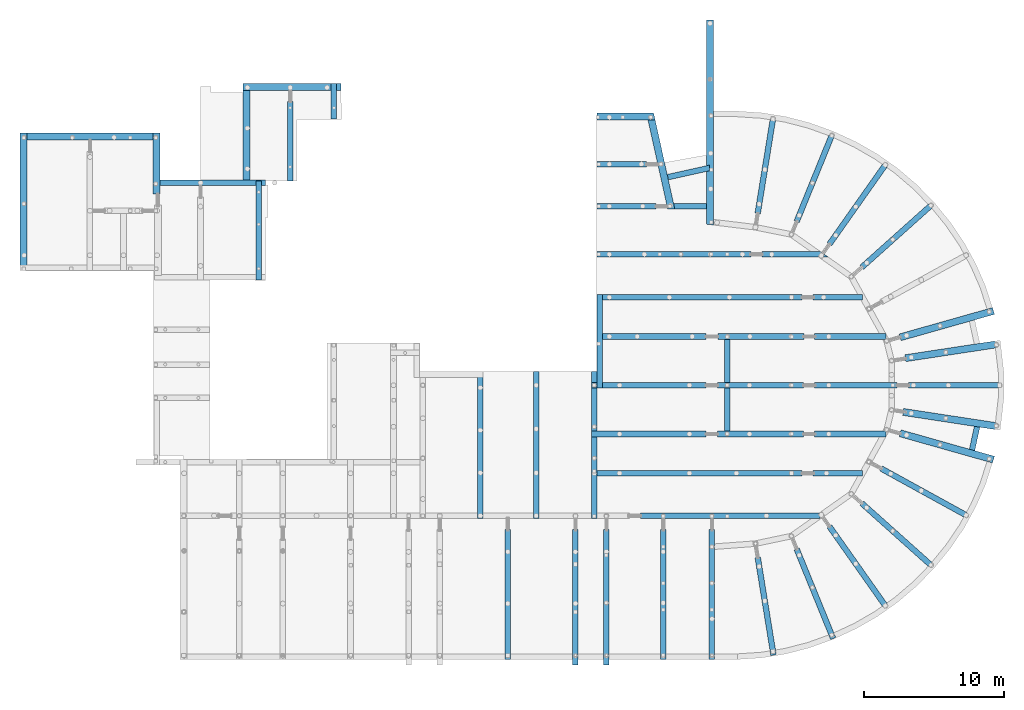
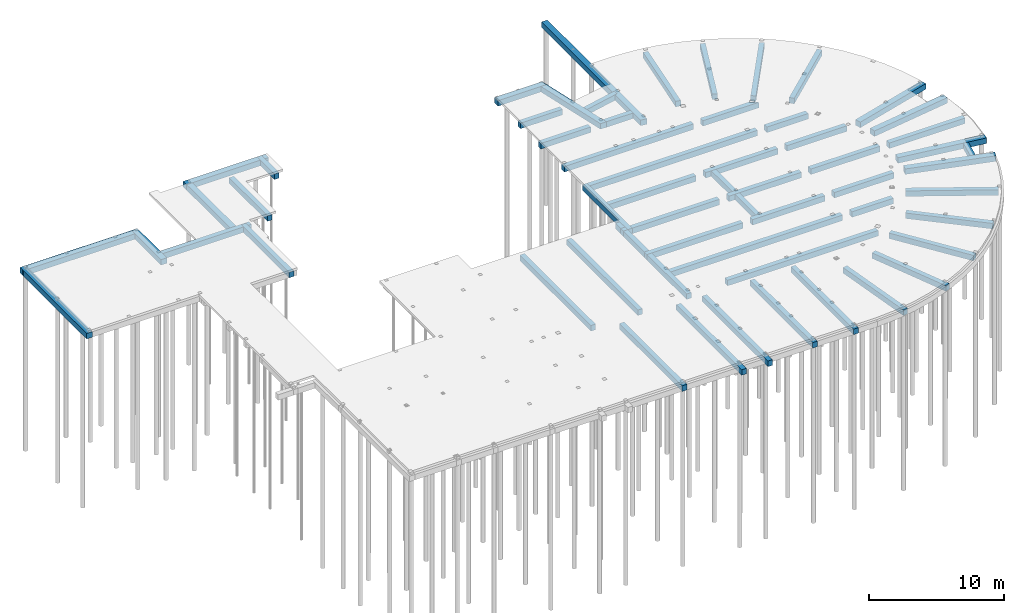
# One storey, part 5 of 22: 57 beams.
"""IFC2X3 building model written with IfcOpenShell, lengths in millimetres."""

from ifc_helpers import new_model, si_unit, frame, origin_with_axes, origin_2d_with_axis, place, context, subcontext, project, spatial, rectangle, extrude, clip, halfspace, material, type_object, element, save


model = new_model("IFC2X3")

# Units and contexts
model_context = context("Model", 3, precision=1e-05, world=origin_with_axes())
body_context = subcontext(model_context, "Body", "Model", "MODEL_VIEW")
ifc_project = project(units=[si_unit("LENGTHUNIT", "METRE", prefix="MILLI"), si_unit("AREAUNIT", "SQUARE_METRE"), si_unit("VOLUMEUNIT", "CUBIC_METRE"), si_unit("MASSUNIT", "GRAM", prefix="KILO"), si_unit("TIMEUNIT", "SECOND"), si_unit("PLANEANGLEUNIT", "RADIAN"), si_unit("SOLIDANGLEUNIT", "STERADIAN"), si_unit("THERMODYNAMICTEMPERATUREUNIT", "DEGREE_CELSIUS"), si_unit("LUMINOUSINTENSITYUNIT", "LUMEN")], contexts=[model_context])

# Site, building, storey
site_placement = place(None, origin_with_axes())
site = spatial("IfcSite", under=ifc_project, at=site_placement, Name="Undefined", CompositionType="ELEMENT")
building_placement = place(site_placement, origin_with_axes())
building = spatial("IfcBuilding", under=site, at=building_placement, Name="Undefined", CompositionType="ELEMENT")
storey_placement = place(building_placement, origin_with_axes())
storey = spatial("IfcBuildingStorey", under=building, at=storey_placement, Name="Undefined", CompositionType="ELEMENT", Elevation=0.0)

# Beams
ifc_material = material(Name="CONCRETE/C30/37")
beam_type_1 = type_object("IfcBeamType", Name="400*500", PredefinedType="NOTDEFINED")
beam_1_placement = place(storey_placement, frame((41313.0665930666, 19416.0599047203, -520.0), z_axis=(0.0, 0.0, 1.0), x_axis=(0.0, 1.0, 0.0)))
element("IfcBeam", 1, at=beam_1_placement, inside=storey, type_object=beam_type_1, material=ifc_material, Name="BALK", context=body_context, shape_type="SweptSolid", body=[
    extrude(rectangle(XDim=400.0, YDim=500.0, at=origin_2d_with_axis()), frame((6699.63930604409, 7.27595765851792e-12, 0.0), z_axis=(-1.0, 0.0, 0.0), x_axis=(0.0, -1.0, 0.0)), (0.0, 0.0, 1.0), 6699.64),
])
beam_2_placement = place(storey_placement, frame((44685.778358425, 35452.0701223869, -520.0), z_axis=(0.0, 0.0, 1.0), x_axis=(-1.0, 0.0, 0.0)))
element("IfcBeam", 2, at=beam_2_placement, inside=storey, type_object=beam_type_1, material=ifc_material, Name="BALK", context=body_context, shape_type="SweptSolid", body=[
    extrude(rectangle(XDim=400.0, YDim=500.0, at=origin_2d_with_axis()), frame((3572.70964659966, 0.0, 0.0), z_axis=(-1.0, 0.0, 0.0), x_axis=(0.0, -1.0, 0.0)), (0.0, 0.0, 1.0), 3572.71),
])
beam_3_placement = place(storey_placement, frame((45371.4467927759, 32438.742046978, -520.0), z_axis=(0.0, 0.0, 1.0), x_axis=(-1.0, 0.0, 0.0)))
element("IfcBeam", 3, at=beam_3_placement, inside=storey, type_object=beam_type_1, material=ifc_material, Name="BALK", context=body_context, shape_type="SweptSolid", body=[
    extrude(rectangle(XDim=400.0, YDim=500.0, at=origin_2d_with_axis()), frame((4258.37808095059, 0.0, 0.0), z_axis=(-1.0, 0.0, 0.0), x_axis=(0.0, -1.0, 0.0)), (0.0, 0.0, 1.0), 4258.38),
])
beam_4_placement = place(storey_placement, frame((55814.0937151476, 13316.4203283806, -520.0), z_axis=(0.0, 0.0, 1.0), x_axis=(-1.0, 0.0, 0.0)))
element("IfcBeam", 4, at=beam_4_placement, inside=storey, type_object=beam_type_1, material=ifc_material, Name="BALK", context=body_context, shape_type="Clipping", body=[
    clip(extrude(rectangle(XDim=400.0, YDim=500.0, at=origin_2d_with_axis()), frame((15073.4273696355, 0.0, 0.0), z_axis=(-1.0, 0.0, 0.0), x_axis=(0.0, -1.0, 0.0)), (0.0, 0.0, 1.0), 15073.43), halfspace(frame((15073.4273696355, 0.0, 0.0), z_axis=(1.0, 0.0, 0.0), x_axis=(0.0, 0.0, -1.0)), False)),
])
beam_5_placement = place(storey_placement, frame((55814.0937151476, 25915.6991949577, -520.0), z_axis=(0.0, 0.0, 1.0), x_axis=(-1.0, 0.0, 0.0)))
element("IfcBeam", 5, at=beam_5_placement, inside=storey, type_object=beam_type_1, material=ifc_material, Name="BALK", context=body_context, shape_type="SweptSolid", body=[
    extrude(rectangle(XDim=400.0, YDim=500.0, at=origin_2d_with_axis()), frame((14701.0250033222, 0.0, 0.0), z_axis=(-1.0, 0.0, 0.0), x_axis=(0.0, -1.0, 0.0)), (0.0, 0.0, 1.0), 14701.03),
])
beam_6_placement = place(storey_placement, frame((55953.6309869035, 23108.6585527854, -520.0), z_axis=(0.0, 0.0, 1.0), x_axis=(-1.0, 0.0, 0.0)))
element("IfcBeam", 6, at=beam_6_placement, inside=storey, type_object=beam_type_1, material=ifc_material, Name="BALK", context=body_context, shape_type="SweptSolid", body=[
    extrude(rectangle(XDim=400.0, YDim=500.0, at=origin_2d_with_axis()), frame((6174.49371537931, 0.0, 0.0), z_axis=(-1.0, 0.0, 0.0), x_axis=(0.0, -1.0, 0.0)), (0.0, 0.0, 1.0), 6174.49),
])
for number, where, z_axis, x_axis, name in (
    (7, (55924.0937151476, 19616.0599047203, -520.0), (0.0, 0.0, 1.0), (-1.0, 0.0, 0.0), "BALK"),
    (8, (55924.0937151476, 16127.9599047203, -520.0), (0.0, 0.0, 1.0), (-1.0, 0.0, 0.0), "BALK"),
):
    element("IfcBeam", number, at=place(storey_placement, frame(where, z_axis=z_axis, x_axis=x_axis)), inside=storey, type_object=beam_type_1, material=ifc_material, Name=name, context=body_context, shape_type="SweptSolid", body=[
        extrude(rectangle(XDim=400.0, YDim=500.0, at=origin_2d_with_axis()), frame((6174.09371537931, 0.0, 0.0), z_axis=(-1.0, 0.0, 0.0), x_axis=(0.0, -1.0, 0.0)), (0.0, 0.0, 1.0), 6174.09),
    ])
beam_7_placement = place(storey_placement, frame((52143.2836200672, 28991.3432623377, -520.0), z_axis=(0.0, 0.0, 1.0), x_axis=(-0.999999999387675, -3.49950000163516e-05, 0.0)))
element("IfcBeam", 9, at=beam_7_placement, inside=storey, type_object=beam_type_1, material=ifc_material, Name="BALK", context=body_context, shape_type="SweptSolid", body=[
    extrude(rectangle(XDim=400.0, YDim=500.0, at=origin_2d_with_axis()), frame((11030.2172038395, -7.47436590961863e-17, 0.0), z_axis=(-1.0, 0.0, 0.0), x_axis=(0.0, -1.0, 0.0)), (0.0, 0.0, 1.0), 11030.22),
])
beam_8_placement = place(storey_placement, frame((48949.9999997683, 16127.9599047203, -520.0), z_axis=(0.0, 0.0, 1.0), x_axis=(-1.0, 0.0, 0.0)))
element("IfcBeam", 10, at=beam_8_placement, inside=storey, type_object=beam_type_1, material=ifc_material, Name="BALK", context=body_context, shape_type="Clipping", body=[
    clip(extrude(rectangle(XDim=400.0, YDim=500.0, at=origin_2d_with_axis()), frame((8209.3337245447, 0.0, 0.0), z_axis=(-1.0, 0.0, 0.0), x_axis=(0.0, -1.0, 0.0)), (0.0, 0.0, 1.0), 8209.33), halfspace(frame((8209.3337245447, 0.0, 0.0), z_axis=(1.0, 0.0, 0.0), x_axis=(0.0, 0.0, 1.0)), False)),
])
beam_9_placement = place(storey_placement, frame((48949.9999997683, 19616.0599047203, -520.0), z_axis=(0.0, 0.0, 1.0), x_axis=(-1.0, 0.0, 0.0)))
element("IfcBeam", 11, at=beam_9_placement, inside=storey, type_object=beam_type_1, material=ifc_material, Name="BALK", context=body_context, shape_type="Clipping", body=[
    clip(extrude(rectangle(XDim=400.0, YDim=500.0, at=origin_2d_with_axis()), frame((8209.33381174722, 0.0, 0.0), z_axis=(-1.0, 0.0, 0.0), x_axis=(0.0, -1.0, 0.0)), (0.0, 0.0, 1.0), 8209.33), halfspace(frame((8209.33381174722, 0.0, 0.0), z_axis=(1.0, 0.0, 0.0), x_axis=(0.0, 0.0, 1.0)), False)),
])
beam_10_placement = place(storey_placement, frame((48949.9999997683, 23108.6258148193, -520.0), z_axis=(0.0, 0.0, 1.0), x_axis=(-1.0, 0.0, 0.0)))
element("IfcBeam", 12, at=beam_10_placement, inside=storey, type_object=beam_type_1, material=ifc_material, Name="BALK", context=body_context, shape_type="SweptSolid", body=[
    extrude(rectangle(XDim=400.0, YDim=500.0, at=origin_2d_with_axis()), frame((7836.93511939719, 0.0, 0.0), z_axis=(-1.0, 0.0, 0.0), x_axis=(0.0, -1.0, 0.0)), (0.0, 0.0, 1.0), 7836.94),
])
beam_11_placement = place(storey_placement, frame((50449.9999997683, 15927.9599047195, -519.999999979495), z_axis=(0.0, 0.0, 1.0), x_axis=(0.0, 1.0, 0.0)))
element("IfcBeam", 13, at=beam_11_placement, inside=storey, type_object=beam_type_1, material=ifc_material, Name="BALK", context=body_context, shape_type="SweptSolid", body=[
    extrude(rectangle(XDim=400.0, YDim=500.0, at=origin_2d_with_axis()), frame((7380.66591009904, 0.0, 0.0), z_axis=(-1.0, 0.0, 0.0), x_axis=(0.0, -1.0, 0.0)), (0.0, 0.0, 1.0), 7380.67),
])
beam_12_placement = place(storey_placement, frame((44240.666421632, 10273.6240965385, -520.0), z_axis=(0.0, 0.0, 1.0), x_axis=(1.0, 0.0, 0.0)))
element("IfcBeam", 14, at=beam_12_placement, inside=storey, type_object=beam_type_1, material=ifc_material, Name="BALK", context=body_context, shape_type="SweptSolid", body=[
    extrude(rectangle(XDim=400.0, YDim=500.0, at=origin_2d_with_axis()), frame((12858.2578504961, 0.0, 0.0), z_axis=(-1.0, 0.0, 0.0), x_axis=(0.0, -1.0, 0.0)), (0.0, 0.0, 1.0), 12858.26),
])
beam_13_placement = place(storey_placement, frame((62624.5071572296, 19616.0599047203, -520.0), z_axis=(0.0, 0.0, 1.0), x_axis=(-1.0, 0.0, 0.0)))
element("IfcBeam", 15, at=beam_13_placement, inside=storey, type_object=beam_type_1, material=ifc_material, Name="BALK", context=body_context, shape_type="SweptSolid", body=[
    extrude(rectangle(XDim=400.0, YDim=500.0, at=origin_2d_with_axis()), frame((5900.41344208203, 0.0, 0.0), z_axis=(-1.0, 0.0, 0.0), x_axis=(0.0, -1.0, 0.0)), (0.0, 0.0, 1.0), 5900.41),
])
beam_14_placement = place(storey_placement, frame((22291.5971480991, 38674.3329422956, -520.0), z_axis=(0.0, 0.0, 1.0), x_axis=(-2.34999999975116e-06, 0.999999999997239, 0.0)))
element("IfcBeam", 16, at=beam_14_placement, inside=storey, type_object=beam_type_1, material=ifc_material, Name="BALK", context=body_context, shape_type="Clipping", body=[
    clip(extrude(rectangle(XDim=400.0, YDim=500.0, at=origin_2d_with_axis()), frame((2564.36718033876, 0.0, 0.0), z_axis=(-1.0, 0.0, 0.0), x_axis=(0.0, -1.0, 0.0)), (0.0, 0.0, 1.0), 2564.37), halfspace(frame((2564.36503203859, -0.00355932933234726, 0.0), z_axis=(0.999999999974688, -7.11500000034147e-06, 0.0), x_axis=(0.0, 0.0, 1.0)), False)),
])
beam_15_placement = place(storey_placement, frame((19159.1603393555, 34262.1307373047, -520.0), z_axis=(0.0, 0.0, 1.0), x_axis=(0.0, 1.0, 0.0)))
element("IfcBeam", 17, at=beam_15_placement, inside=storey, type_object=beam_type_1, material=ifc_material, Name="BALK", context=body_context, shape_type="SweptSolid", body=[
    extrude(rectangle(XDim=400.0, YDim=500.0, at=origin_2d_with_axis()), frame((5676.62353510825, 3.00517947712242e-19, 0.0), z_axis=(-1.0, 0.0, 0.0), x_axis=(0.0, -1.0, 0.0)), (0.0, 0.0, 1.0), 5676.62),
])
beam_16_placement = place(storey_placement, frame((17387.3418762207, 34117.1122741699, -520.0), z_axis=(0.0, 0.0, 1.0), x_axis=(-0.999999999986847, -5.12899999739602e-06, 0.0)))
element("IfcBeam", 18, at=beam_16_placement, inside=storey, type_object=beam_type_1, material=ifc_material, Name="BALK", context=body_context, shape_type="Clipping", body=[
    clip(extrude(rectangle(XDim=400.0, YDim=500.0, at=origin_2d_with_axis()), frame((8062.34422103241, -6.82907118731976e-18, -1.13686837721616e-13), z_axis=(-1.0, 0.0, 0.0), x_axis=(0.0, -1.0, 0.0)), (0.0, 0.0, 1.0), 8062.34), halfspace(frame((8062.34111288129, -2.93221091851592e-08, -1.13686837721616e-13), z_axis=(0.999999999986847, -5.12899999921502e-06, 0.0), x_axis=(0.0, 0.0, -1.0)), False)),
])
beam_17_placement = place(storey_placement, frame((16906.9434020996, 27496.1891174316, -520.0), z_axis=(0.0, 0.0, 1.0), x_axis=(0.0, 1.0, 0.0)))
element("IfcBeam", 19, at=beam_17_placement, inside=storey, type_object=beam_type_1, material=ifc_material, Name="BALK", context=body_context, shape_type="Clipping", body=[
    clip(extrude(rectangle(XDim=400.0, YDim=500.0, at=origin_2d_with_axis()), frame((6750.92312310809, 0.0, 0.0), z_axis=(-1.0, 0.0, 0.0), x_axis=(0.0, -1.0, 0.0)), (0.0, 0.0, 1.0), 7081.51), halfspace(frame((-330.586227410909, 3.30586772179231e-07, 0.0), z_axis=(-0.999999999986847, -5.12899999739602e-06, 0.0), x_axis=(0.0, 0.0, -1.0)), False)),
])
beam_18_placement = place(storey_placement, frame((49202.7599101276, 35187.4483490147, -520.0), z_axis=(0.0, 0.0, 1.0), x_axis=(-0.976256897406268, -0.216615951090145, 0.0)))
element("IfcBeam", 20, at=beam_18_placement, inside=storey, type_object=beam_type_1, material=ifc_material, Name="BALK", context=body_context, shape_type="Clipping", body=[
    clip(clip(clip(clip(extrude(rectangle(XDim=400.0, YDim=500.0, at=origin_2d_with_axis()), frame((3721.78597079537, 0.0, 0.0), z_axis=(-1.0, 0.0, 0.0), x_axis=(0.0, -1.0, 0.0)), (0.0, 0.0, 1.0), 4147.36), halfspace(frame((57.0257516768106, 199.99999997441, -250.0), z_axis=(-0.984075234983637, 0.17775244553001, 0.0), x_axis=(0.0, 0.0, 1.0)), False)), halfspace(frame((3078.60993876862, -200.000001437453, -250.0), z_axis=(0.999213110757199, 0.0396630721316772, 0.0), x_axis=(0.0, 0.0, 1.0)), False)), halfspace(frame((3576.71307467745, -7.27595761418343e-12, 0.0), z_axis=(-0.99999998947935, -0.000145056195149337, 0.0), x_axis=(0.0, 0.0, -1.0)), True)), halfspace(frame((-280.503425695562, -7.27595761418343e-12, 0.0), z_axis=(-0.976256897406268, 0.216615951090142, 0.0), x_axis=(0.0, 0.0, 1.0)), False)),
])
beam_19_placement = place(storey_placement, frame((36780.7000625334, 10418.6233335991, -520.0), z_axis=(0.0, 0.0, 1.0), x_axis=(0.0, 1.0, 0.0)))
element("IfcBeam", 21, at=beam_19_placement, inside=storey, type_object=beam_type_1, material=ifc_material, Name="BALK", context=body_context, shape_type="Clipping", body=[
    clip(extrude(rectangle(XDim=400.0, YDim=500.0, at=origin_2d_with_axis()), frame((10167.6969337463, 0.0, 0.0), z_axis=(-1.0, 0.0, 0.0), x_axis=(0.0, -1.0, 0.0)), (0.0, 0.0, 1.0), 10512.7), halfspace(frame((-344.999237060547, 0.0, 0.0), z_axis=(1.0, 0.0, 0.0), x_axis=(0.0, 0.0, -1.0)), True)),
])
beam_20_placement = place(storey_placement, frame((32780.7005813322, 10418.6233335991, -520.0), z_axis=(0.0, 0.0, 1.0), x_axis=(0.0, 1.0, 0.0)))
element("IfcBeam", 22, at=beam_20_placement, inside=storey, type_object=beam_type_1, material=ifc_material, Name="BALK", context=body_context, shape_type="Clipping", body=[
    clip(clip(extrude(rectangle(XDim=400.0, YDim=500.0, at=origin_2d_with_axis()), frame((10167.6969337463, 0.0, 0.0), z_axis=(-1.0, 0.0, 0.0), x_axis=(0.0, -1.0, 0.0)), (0.0, 0.0, 1.0), 10512.7), halfspace(frame((10167.6969337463, 0.0, 0.0), z_axis=(1.0, 0.0, 0.0), x_axis=(0.0, 0.0, 1.0)), False)), halfspace(frame((-344.999237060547, 0.0, 0.0), z_axis=(1.0, 0.0, 0.0), x_axis=(0.0, 0.0, -1.0)), True)),
])
beam_21_placement = place(storey_placement, frame((40940.666423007, 10418.6233335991, -520.0), z_axis=(0.0, 0.0, 1.0), x_axis=(0.0, 1.0, 0.0)))
element("IfcBeam", 23, at=beam_21_placement, inside=storey, type_object=beam_type_1, material=ifc_material, Name="BALK", context=body_context, shape_type="Clipping", body=[
    clip(extrude(rectangle(XDim=400.0, YDim=500.0, at=origin_2d_with_axis()), frame((10167.6969337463, 0.0, 0.0), z_axis=(-1.0, 0.0, 0.0), x_axis=(0.0, -1.0, 0.0)), (0.0, 0.0, 1.0), 10512.7), halfspace(frame((-344.999237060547, 0.0, 0.0), z_axis=(1.0, 0.0, 0.0), x_axis=(0.0, 0.0, -1.0)), True)),
])
beam_22_placement = place(storey_placement, frame((49561.6195846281, 32438.742046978, -520.0), z_axis=(0.0, 0.0, 1.0), x_axis=(-1.0, 0.0, 0.0)))
element("IfcBeam", 24, at=beam_22_placement, inside=storey, type_object=beam_type_1, material=ifc_material, Name="BALK", context=body_context, shape_type="Clipping", body=[
    clip(clip(clip(extrude(rectangle(XDim=400.0, YDim=500.0, at=origin_2d_with_axis()), frame((3456.77279185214, 0.0, 0.0), z_axis=(-1.0, 0.0, 0.0), x_axis=(0.0, -1.0, 0.0)), (0.0, 0.0, 1.0), 3456.77), halfspace(frame((2855.89023518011, 200.0, 250.0), z_axis=(0.97626061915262, 0.216599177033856, 0.0), x_axis=(0.0, 0.0, -1.0)), False)), halfspace(frame((585.016270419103, 200.0, -250.0), z_axis=(-1.0, 0.0, 0.0), x_axis=(0.0, 0.0, 1.0)), False)), halfspace(frame((85.0162704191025, 0.0, 0.0), z_axis=(-1.0, 0.0, 0.0), x_axis=(0.0, 0.0, 1.0)), False)),
])
beam_23_placement = place(storey_placement, frame((57372.6520609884, 28990.9572601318, -520.0), z_axis=(0.0, 0.0, 1.0), x_axis=(-0.999999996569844, 8.28269999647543e-05, 0.0)))
element("IfcBeam", 25, at=beam_23_placement, inside=storey, type_object=beam_type_1, material=ifc_material, Name="BALK", context=body_context, shape_type="Clipping", body=[
    clip(extrude(rectangle(XDim=400.0, YDim=500.0, at=origin_2d_with_axis()), frame((4429.36845771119, 0.0, 0.0), z_axis=(-1.0, 0.0, 0.0), x_axis=(0.0, -1.0, 0.0)), (0.0, 0.0, 1.0), 4761.49), halfspace(frame((474.064382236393, -366.581605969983, 520.0), z_axis=(0.576365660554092, 0.817191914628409, 0.0), x_axis=(0.0, 0.0, 1.0)), True)),
])
beam_24_placement = place(storey_placement, frame((60157.2823647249, 25915.6991949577, -520.0), z_axis=(0.0, 0.0, 1.0), x_axis=(-1.0, 0.0, 0.0)))
element("IfcBeam", 26, at=beam_24_placement, inside=storey, type_object=beam_type_1, material=ifc_material, Name="BALK", context=body_context, shape_type="SweptSolid", body=[
    extrude(rectangle(XDim=400.0, YDim=500.0, at=origin_2d_with_axis()), frame((3543.18864957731, 0.0, 0.0), z_axis=(-1.0, 0.0, 0.0), x_axis=(0.0, -1.0, 0.0)), (0.0, 0.0, 1.0), 3543.19),
])
beam_25_placement = place(storey_placement, frame((61813.8693527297, 23108.6258148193, -520.0), z_axis=(0.0, 0.0, 1.0), x_axis=(-1.0, 0.0, 0.0)))
element("IfcBeam", 27, at=beam_25_placement, inside=storey, type_object=beam_type_1, material=ifc_material, Name="BALK", context=body_context, shape_type="SweptSolid", body=[
    extrude(rectangle(XDim=400.0, YDim=500.0, at=origin_2d_with_axis()), frame((5089.7756375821, 0.0, 0.0), z_axis=(-1.0, 0.0, 0.0), x_axis=(0.0, -1.0, 0.0)), (0.0, 0.0, 1.0), 5089.78),
])
beam_26_placement = place(storey_placement, frame((60150.7137025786, 13316.4203283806, -520.0), z_axis=(0.0, 0.0, 1.0), x_axis=(-1.0, 0.0, 0.0)))
element("IfcBeam", 28, at=beam_26_placement, inside=storey, type_object=beam_type_1, material=ifc_material, Name="BALK", context=body_context, shape_type="SweptSolid", body=[
    extrude(rectangle(XDim=400.0, YDim=500.0, at=origin_2d_with_axis()), frame((3536.619987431, 0.0, 0.0), z_axis=(-1.0, 0.0, 0.0), x_axis=(0.0, -1.0, 0.0)), (0.0, 0.0, 1.0), 3536.62),
])
beam_27_placement = place(storey_placement, frame((61817.1067500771, 16127.9599047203, -520.0), z_axis=(0.0, 0.0, 1.0), x_axis=(-1.0, 0.0, 0.0)))
element("IfcBeam", 29, at=beam_27_placement, inside=storey, type_object=beam_type_1, material=ifc_material, Name="BALK", context=body_context, shape_type="SweptSolid", body=[
    extrude(rectangle(XDim=400.0, YDim=500.0, at=origin_2d_with_axis()), frame((5093.01303492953, 0.0, 0.0), z_axis=(-1.0, 0.0, 0.0), x_axis=(0.0, -1.0, 0.0)), (0.0, 0.0, 1.0), 5093.01),
])
beam_28_placement = place(storey_placement, frame((53719.9219370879, 38613.7357228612, -520.0), z_axis=(0.0, 0.0, 1.0), x_axis=(-0.159664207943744, -0.987171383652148, 0.0)))
element("IfcBeam", 30, at=beam_28_placement, inside=storey, type_object=beam_type_1, material=ifc_material, Name="BALK", context=body_context, shape_type="SweptSolid", body=[
    extrude(rectangle(XDim=400.0, YDim=500.0, at=origin_2d_with_axis()), frame((6779.94828001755, 0.0, 0.0), z_axis=(-1.0, 0.0, 0.0), x_axis=(0.0, -1.0, 0.0)), (0.0, 0.0, 1.0), 6779.95),
])
beam_29_placement = place(storey_placement, frame((57915.2122665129, 37438.4812170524, -520.0), z_axis=(0.0, 0.0, 1.0), x_axis=(-0.377505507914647, -0.92600733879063, 0.0)))
element("IfcBeam", 31, at=beam_29_placement, inside=storey, type_object=beam_type_1, material=ifc_material, Name="BALK", context=body_context, shape_type="SweptSolid", body=[
    extrude(rectangle(XDim=400.0, YDim=500.0, at=origin_2d_with_axis()), frame((6579.65439125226, 0.0, 1.13686837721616e-13), z_axis=(-1.0, 0.0, 0.0), x_axis=(0.0, -1.0, 0.0)), (0.0, 0.0, 1.0), 6579.65),
])
beam_30_placement = place(storey_placement, frame((61736.036661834, 35342.7226687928, -520.0), z_axis=(0.0, 0.0, 1.0), x_axis=(-0.576253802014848, -0.817270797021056, 0.0)))
element("IfcBeam", 32, at=beam_30_placement, inside=storey, type_object=beam_type_1, material=ifc_material, Name="BALK", context=body_context, shape_type="SweptSolid", body=[
    extrude(rectangle(XDim=400.0, YDim=500.0, at=origin_2d_with_axis()), frame((6879.17556203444, 7.63741909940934e-13, 0.0), z_axis=(-1.0, 0.0, 0.0), x_axis=(0.0, -1.0, 0.0)), (0.0, 0.0, 1.0), 6879.18),
])
beam_31_placement = place(storey_placement, frame((64992.6447545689, 32447.9735306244, -520.0), z_axis=(0.0, 0.0, 1.0), x_axis=(-0.745323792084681, -0.666702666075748, 0.0)))
element("IfcBeam", 33, at=beam_31_placement, inside=storey, type_object=beam_type_1, material=ifc_material, Name="BALK", context=body_context, shape_type="SweptSolid", body=[
    extrude(rectangle(XDim=400.0, YDim=500.0, at=origin_2d_with_axis()), frame((6579.72541858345, 0.0, 0.0), z_axis=(-1.0, 0.0, 0.0), x_axis=(0.0, -1.0, 0.0)), (0.0, 0.0, 1.0), 6579.73),
])
beam_32_placement = place(storey_placement, frame((69897.1840072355, 19616.0599047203, -520.0), z_axis=(0.0, 0.0, 1.0), x_axis=(-1.0, 0.0, 0.0)))
element("IfcBeam", 34, at=beam_32_placement, inside=storey, type_object=beam_type_1, material=ifc_material, Name="BALK", context=body_context, shape_type="SweptSolid", body=[
    extrude(rectangle(XDim=400.0, YDim=500.0, at=origin_2d_with_axis()), frame((6472.67685000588, 0.0, 0.0), z_axis=(-1.0, 0.0, 0.0), x_axis=(0.0, -1.0, 0.0)), (0.0, 0.0, 1.0), 6472.68),
])
beam_33_placement = place(storey_placement, frame((67507.7143847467, 10342.1249930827, -520.0), z_axis=(0.0, 0.0, 1.0), x_axis=(-0.876224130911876, 0.481903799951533, 0.0)))
element("IfcBeam", 35, at=beam_33_placement, inside=storey, type_object=beam_type_1, material=ifc_material, Name="BALK", context=body_context, shape_type="SweptSolid", body=[
    extrude(rectangle(XDim=400.0, YDim=500.0, at=origin_2d_with_axis()), frame((6880.25382990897, 0.0, 0.0), z_axis=(-1.0, 0.0, 0.0), x_axis=(0.0, -1.0, 0.0)), (0.0, 0.0, 1.0), 6880.25),
])
beam_34_placement = place(storey_placement, frame((64992.3416305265, 6783.80716386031, -520.0), z_axis=(0.0, 0.0, 1.0), x_axis=(-0.745289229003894, 0.666741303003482, 0.0)))
element("IfcBeam", 36, at=beam_34_placement, inside=storey, type_object=beam_type_1, material=ifc_material, Name="BALK", context=body_context, shape_type="SweptSolid", body=[
    extrude(rectangle(XDim=400.0, YDim=500.0, at=origin_2d_with_axis()), frame((6583.13081420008, -3.65437170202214e-13, 0.0), z_axis=(-1.0, 0.0, 0.0), x_axis=(0.0, -1.0, 0.0)), (0.0, 0.0, 1.0), 6583.13),
])
beam_35_placement = place(storey_placement, frame((61736.0361688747, 3889.39608581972, -520.0), z_axis=(0.0, 0.0, 1.0), x_axis=(-0.576300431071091, 0.817237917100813, 0.0)))
element("IfcBeam", 37, at=beam_35_placement, inside=storey, type_object=beam_type_1, material=ifc_material, Name="BALK", context=body_context, shape_type="SweptSolid", body=[
    extrude(rectangle(XDim=400.0, YDim=500.0, at=origin_2d_with_axis()), frame((6882.86877378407, 0.0, 0.0), z_axis=(-1.0, 0.0, 0.0), x_axis=(0.0, -1.0, 0.0)), (0.0, 0.0, 1.0), 6882.87),
])
beam_36_placement = place(storey_placement, frame((58042.9548225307, 1482.08909223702, -520.0), z_axis=(0.0, 0.0, 1.0), x_axis=(-0.377638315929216, 0.925953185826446, 0.0)))
element("IfcBeam", 38, at=beam_36_placement, inside=storey, type_object=beam_type_1, material=ifc_material, Name="BALK", context=body_context, shape_type="SweptSolid", body=[
    extrude(rectangle(XDim=400.0, YDim=500.0, at=origin_2d_with_axis()), frame((6920.15132055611, 0.0, 0.0), z_axis=(-1.0, 0.0, 0.0), x_axis=(0.0, -1.0, 0.0)), (0.0, 0.0, 1.0), 6920.15),
])
beam_37_placement = place(storey_placement, frame((53772.3569768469, 294.266371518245, -520.0), z_axis=(0.0, 0.0, 1.0), x_axis=(-0.15966535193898, 0.987171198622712, 0.0)))
element("IfcBeam", 39, at=beam_37_placement, inside=storey, type_object=beam_type_1, material=ifc_material, Name="BALK", context=body_context, shape_type="SweptSolid", body=[
    extrude(rectangle(XDim=400.0, YDim=500.0, at=origin_2d_with_axis()), frame((7085.78180785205, 0.0, 0.0), z_axis=(-1.0, 0.0, 0.0), x_axis=(0.0, -1.0, 0.0)), (0.0, 0.0, 1.0), 7085.78),
])
beam_38_placement = place(storey_placement, frame((49361.6195845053, 336.121921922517, -520.000000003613), z_axis=(0.0, 0.0, 1.0), x_axis=(0.0, 1.0, 0.0)))
element("IfcBeam", 40, at=beam_38_placement, inside=storey, type_object=beam_type_1, material=ifc_material, Name="BALK", context=body_context, shape_type="Clipping", body=[
    clip(extrude(rectangle(XDim=400.0, YDim=500.0, at=origin_2d_with_axis()), frame((8937.50217425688, 0.0, 0.0), z_axis=(-1.0, 0.0, 0.0), x_axis=(0.0, -1.0, 0.0)), (0.0, 0.0, 1.0), 9287.5), halfspace(frame((-350.000381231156, 0.0, 0.0), z_axis=(1.0, 0.0, 0.0), x_axis=(0.0, 0.0, -1.0)), True)),
])
beam_39_placement = place(storey_placement, frame((45873.9582229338, 336.121922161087, -520.0), z_axis=(0.0, 0.0, 1.0), x_axis=(0.0, 1.0, 0.0)))
element("IfcBeam", 41, at=beam_39_placement, inside=storey, type_object=beam_type_1, material=ifc_material, Name="BALK", context=body_context, shape_type="Clipping", body=[
    clip(extrude(rectangle(XDim=400.0, YDim=500.0, at=origin_2d_with_axis()), frame((8937.50198364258, 0.0, 0.0), z_axis=(-1.0, 0.0, 0.0), x_axis=(0.0, -1.0, 0.0)), (0.0, 0.0, 1.0), 9287.5), halfspace(frame((-350.000381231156, 0.0, 0.0), z_axis=(1.0, 0.0, 0.0), x_axis=(0.0, 0.0, -1.0)), True)),
])
for number, where, z_axis, x_axis, name in (
    (42, (41807.2864700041, -423.939341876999, -520.0), (0.0, 0.0, 1.0), (0.0, 1.0, 0.0), "BALK"),
    (43, (39587.2911849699, -423.939341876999, -520.0), (0.0, 0.0, 1.0), (-1.13299999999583e-06, 0.999999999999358, 0.0), "BALK"),
):
    element("IfcBeam", number, at=place(storey_placement, frame(where, z_axis=z_axis, x_axis=x_axis)), inside=storey, type_object=beam_type_1, material=ifc_material, Name=name, context=body_context, shape_type="SweptSolid", body=[
        extrude(rectangle(XDim=400.0, YDim=500.0, at=origin_2d_with_axis()), frame((9697.56324768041, 6.41730904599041e-20, -1.13686837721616e-13), z_axis=(-1.0, 0.0, 0.0), x_axis=(0.0, -1.0, 0.0)), (0.0, 0.0, 1.0), 9697.56),
    ])
beam_40_placement = place(storey_placement, frame((34741.2811446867, 336.121922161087, -520.0), z_axis=(0.0, 0.0, 1.0), x_axis=(0.0, 1.0, 0.0)))
element("IfcBeam", 44, at=beam_40_placement, inside=storey, type_object=beam_type_1, material=ifc_material, Name="BALK", context=body_context, shape_type="Clipping", body=[
    clip(extrude(rectangle(XDim=400.0, YDim=500.0, at=origin_2d_with_axis()), frame((8937.50198364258, 0.0, 0.0), z_axis=(-1.0, 0.0, 0.0), x_axis=(0.0, -1.0, 0.0)), (0.0, 0.0, 1.0), 9287.5), halfspace(frame((-350.000381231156, 0.0, 0.0), z_axis=(1.0, 0.0, 0.0), x_axis=(0.0, 0.0, -1.0)), True)),
])
beam_41_placement = place(storey_placement, frame((67996.183567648, 15014.0282730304, -520.0), z_axis=(0.0, 0.0, 1.0), x_axis=(0.211578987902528, 0.977360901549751, 0.0)))
element("IfcBeam", 45, at=beam_41_placement, inside=storey, type_object=beam_type_1, material=ifc_material, Name="BALK", context=body_context, shape_type="Clipping", body=[
    clip(clip(extrude(rectangle(XDim=400.0, YDim=500.0, at=origin_2d_with_axis()), frame((1837.99334941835, 0.0, 0.0), z_axis=(-1.0, 0.0, 0.0), x_axis=(0.0, -1.0, 0.0)), (0.0, 0.0, 1.0), 2035.02), halfspace(frame((1693.49527687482, -364.867330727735, 520.0), z_axis=(0.998075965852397, 0.0620029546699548, 0.0), x_axis=(0.0, 0.0, 1.0)), False)), halfspace(frame((-56.7258720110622, -429.391826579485, 520.0), z_axis=(0.998049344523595, -0.0624300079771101, 0.0), x_axis=(0.0, 0.0, 1.0)), True)),
])
beam_type_2 = type_object("IfcBeamType", Name="500*500", PredefinedType="NOTDEFINED")
beam_42_placement = place(storey_placement, frame((62837.4320736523, 23049.7425454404, -520.0), z_axis=(0.0, 0.0, 1.0), x_axis=(0.962245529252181, 0.27218291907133, 0.0)))
element("IfcBeam", 46, at=beam_42_placement, inside=storey, type_object=beam_type_2, material=ifc_material, Name="BALK", context=body_context, shape_type="Clipping", body=[
    clip(extrude(rectangle(XDim=500.0, YDim=500.0, at=origin_2d_with_axis()), frame((7213.34075178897, 0.0, 0.0), z_axis=(-1.0, 0.0, 0.0), x_axis=(0.0, -1.0, 0.0)), (0.0, 0.0, 1.0), 7213.34), halfspace(frame((6938.54560746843, 286.108784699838, 520.0), z_axis=(-0.999790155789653, -0.0204852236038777, 0.0), x_axis=(0.0, 0.0, 1.0)), True)),
])
beam_43_placement = place(storey_placement, frame((62837.4320736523, 16182.4574545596, -520.0), z_axis=(0.0, 0.0, 1.0), x_axis=(0.962245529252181, -0.272182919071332, 0.0)))
element("IfcBeam", 47, at=beam_43_placement, inside=storey, type_object=beam_type_2, material=ifc_material, Name="BALK", context=body_context, shape_type="Clipping", body=[
    clip(extrude(rectangle(XDim=500.0, YDim=500.0, at=origin_2d_with_axis()), frame((7218.91367108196, 0.0, 0.0), z_axis=(-1.0, 0.0, 0.0), x_axis=(0.0, -1.0, 0.0)), (0.0, 0.0, 1.0), 7218.91), halfspace(frame((6956.3840915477, 250.000000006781, 520.0), z_axis=(-0.998369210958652, 0.0570869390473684, 0.0), x_axis=(0.0, 0.0, 1.0)), True)),
])
beam_44_placement = place(storey_placement, frame((70039.7042288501, 16642.510465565, -520.0), z_axis=(0.0, 0.0, 1.0), x_axis=(-0.988598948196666, 0.150572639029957, 0.0)))
element("IfcBeam", 48, at=beam_44_placement, inside=storey, type_object=beam_type_2, material=ifc_material, Name="BALK", context=body_context, shape_type="Clipping", body=[
    clip(clip(extrude(rectangle(XDim=500.0, YDim=500.0, at=origin_2d_with_axis()), frame((7058.54911194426, -3.83389290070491e-12, -1.13686837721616e-13), z_axis=(-1.0, 0.0, 0.0), x_axis=(0.0, -1.0, 0.0)), (0.0, 0.0, 1.0), 7191.31), halfspace(frame((400.246577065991, 249.999999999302, 520.0), z_axis=(0.0, 1.0, 0.0), x_axis=(0.0, 0.0, 1.0)), False)), halfspace(frame((17.593131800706, -250.973662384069, 520.0), z_axis=(0.999999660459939, 0.000824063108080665, 0.0), x_axis=(0.0, 0.0, 1.0)), True)),
])
beam_45_placement = place(storey_placement, frame((9575.00076344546, 33315.9883117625, -520.0), z_axis=(0.0, 0.0, 1.0), x_axis=(0.0, 1.0, 0.0)))
element("IfcBeam", 49, at=beam_45_placement, inside=storey, type_object=beam_type_2, material=ifc_material, Name="BALK", context=body_context, shape_type="SweptSolid", body=[
    extrude(rectangle(XDim=500.0, YDim=500.0, at=origin_2d_with_axis()), frame((4349.99764353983, 0.0, 0.0), z_axis=(-1.0, 0.0, 0.0), x_axis=(0.0, -1.0, 0.0)), (0.0, 0.0, 1.0), 4350.0),
])
beam_46_placement = place(storey_placement, frame((58.6494574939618, 27825.947287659, -520.0), z_axis=(0.0, 0.0, 1.0), x_axis=(-1.13299999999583e-06, 0.999999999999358, 0.0)))
element("IfcBeam", 50, at=beam_46_placement, inside=storey, type_object=beam_type_2, material=ifc_material, Name="BALK", context=body_context, shape_type="SweptSolid", body=[
    extrude(rectangle(XDim=500.0, YDim=500.0, at=origin_2d_with_axis()), frame((9840.03895102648, 0.0, 0.0), z_axis=(-1.0, 0.0, 0.0), x_axis=(0.0, -1.0, 0.0)), (0.0, 0.0, 1.0), 9840.04),
])
beam_47_placement = place(storey_placement, frame((9824.81643533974, 37415.9859553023, -520.0), z_axis=(0.0, 0.0, 1.0), x_axis=(-1.0, 0.0, 0.0)))
element("IfcBeam", 51, at=beam_47_placement, inside=storey, type_object=beam_type_2, material=ifc_material, Name="BALK", context=body_context, shape_type="SweptSolid", body=[
    extrude(rectangle(XDim=500.0, YDim=500.0, at=origin_2d_with_axis()), frame((10016.178131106, 0.0, 0.0), z_axis=(-1.0, 0.0, 0.0), x_axis=(0.0, -1.0, 0.0)), (0.0, 0.0, 1.0), 10016.18),
])
beam_48_placement = place(storey_placement, frame((22786.6749366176, 40988.6953231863, -520.0), z_axis=(0.0, 0.0, 1.0), x_axis=(-0.999999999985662, 5.35500000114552e-06, 0.0)))
element("IfcBeam", 52, at=beam_48_placement, inside=storey, type_object=beam_type_2, material=ifc_material, Name="BALK", context=body_context, shape_type="Clipping", body=[
    clip(extrude(rectangle(XDim=500.0, YDim=500.0, at=origin_2d_with_axis()), frame((10084.7292023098, -8.54209789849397e-18, 1.13686837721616e-13), z_axis=(-1.0, 0.0, 0.0), x_axis=(0.0, -1.0, 0.0)), (0.0, 0.0, 1.0), 10084.73), halfspace(frame((6991.59979388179, 9.09494701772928e-10, 1.13686837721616e-13), z_axis=(0.999999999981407, 6.09799999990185e-06, 0.0), x_axis=(0.0, 0.0, 1.0)), False)),
])
beam_49_placement = place(storey_placement, frame((16045.07606228, 34326.0956155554, -520.0), z_axis=(0.0, 0.0, 1.0), x_axis=(0.0, 1.0, 0.0)))
element("IfcBeam", 53, at=beam_49_placement, inside=storey, type_object=beam_type_2, material=ifc_material, Name="BALK", context=body_context, shape_type="Clipping", body=[
    clip(extrude(rectangle(XDim=500.0, YDim=500.0, at=origin_2d_with_axis()), frame((6912.65487670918, 1.82976451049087e-19, 0.0), z_axis=(-1.0, 0.0, 0.0), x_axis=(0.0, -1.0, 0.0)), (0.0, 0.0, 1.0), 7321.65), halfspace(frame((-408.992686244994, 1.48793333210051e-09, 0.0), z_axis=(-0.999999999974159, -7.18899999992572e-06, 0.0), x_axis=(0.0, 0.0, -1.0)), False)),
])
beam_50_placement = place(storey_placement, frame((44937.8834347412, 39047.8349602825, -520.0), z_axis=(0.0, 0.0, 1.0), x_axis=(0.216757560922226, -0.976225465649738, 0.0)))
element("IfcBeam", 54, at=beam_50_placement, inside=storey, type_object=beam_type_2, material=ifc_material, Name="BALK", context=body_context, shape_type="Clipping", body=[
    clip(clip(extrude(rectangle(XDim=500.0, YDim=500.0, at=origin_2d_with_axis()), frame((7087.04678371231, 1.96705062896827e-13, 1.13686837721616e-13), z_axis=(-1.0, 0.0, 0.0), x_axis=(0.0, -1.0, 0.0)), (0.0, 0.0, 1.0), 7087.05), halfspace(frame((512.130108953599, 250.0, -250.0), z_axis=(-0.976225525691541, 0.216757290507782, 0.0), x_axis=(0.0, 0.0, 1.0)), False)), halfspace(frame((6974.91834918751, 0.0, 1.13686837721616e-13), z_axis=(0.976225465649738, -0.216757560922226, 0.0), x_axis=(0.0, 0.0, 1.0)), False)),
])
beam_51_placement = place(storey_placement, frame((49226.603314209, 31094.6933507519, -520.0), z_axis=(0.0, 0.0, 1.0), x_axis=(0.0, 1.0, 0.0)))
element("IfcBeam", 55, at=beam_51_placement, inside=storey, type_object=beam_type_2, material=ifc_material, Name="BALK", context=body_context, shape_type="Clipping", body=[
    clip(extrude(rectangle(XDim=500.0, YDim=500.0, at=origin_2d_with_axis()), frame((14681.3566262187, 0.0, 0.0), z_axis=(-1.0, 0.0, 0.0), x_axis=(0.0, -1.0, 0.0)), (0.0, 0.0, 1.0), 14682.11), halfspace(frame((61.5662070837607, 263.983348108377, 520.0), z_axis=(-0.992798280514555, 0.119798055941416, 0.0), x_axis=(0.0, 0.0, 1.0)), False)),
])
beam_52_placement = place(storey_placement, frame((45181.2492538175, 38852.069865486, -520.0), z_axis=(0.0, 0.0, 1.0), x_axis=(-1.0, 0.0, 0.0)))
element("IfcBeam", 56, at=beam_52_placement, inside=storey, type_object=beam_type_2, material=ifc_material, Name="BALK", context=body_context, shape_type="Clipping", body=[
    clip(extrude(rectangle(XDim=500.0, YDim=500.0, at=origin_2d_with_axis()), frame((4068.17826993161, -2.15367564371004e-19, 0.0), z_axis=(-1.0, 0.0, 0.0), x_axis=(0.0, -1.0, 0.0)), (0.0, 0.0, 1.0), 4180.43), halfspace(frame((-56.1895309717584, 7.27595761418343e-12, 0.0), z_axis=(-0.976225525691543, -0.216757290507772, 0.0), x_axis=(0.0, 0.0, -1.0)), False)),
])
beam_53_placement = place(storey_placement, frame((70038.9160935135, 22594.8642658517, -520.0), z_axis=(0.0, 0.0, 1.0), x_axis=(-0.988598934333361, -0.150572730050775, 0.0)))
element("IfcBeam", 57, at=beam_53_placement, inside=storey, type_object=beam_type_2, material=ifc_material, Name="BALK", context=body_context, shape_type="Clipping", body=[
    clip(extrude(rectangle(XDim=500.0, YDim=500.0, at=origin_2d_with_axis()), frame((6908.52681116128, 0.0, 0.0), z_axis=(-1.0, 0.0, 0.0), x_axis=(0.0, -1.0, 0.0)), (0.0, 0.0, 1.0), 7041.48), halfspace(frame((17.7089941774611, 250.00000000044, 520.0), z_axis=(-0.999373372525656, 0.0353957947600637, 0.0), x_axis=(0.0, 0.0, 1.0)), False)),
])

save(model, "model.ifc")
